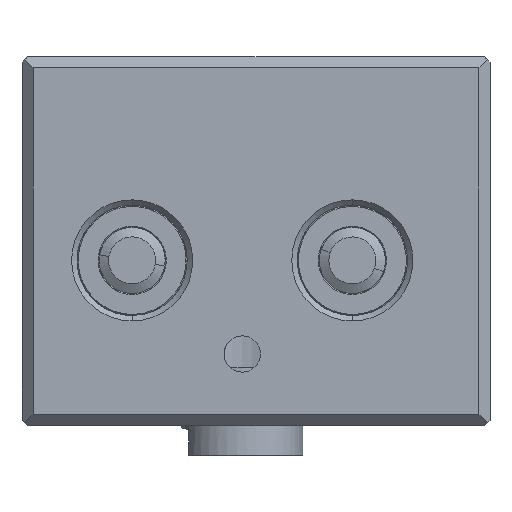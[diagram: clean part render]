
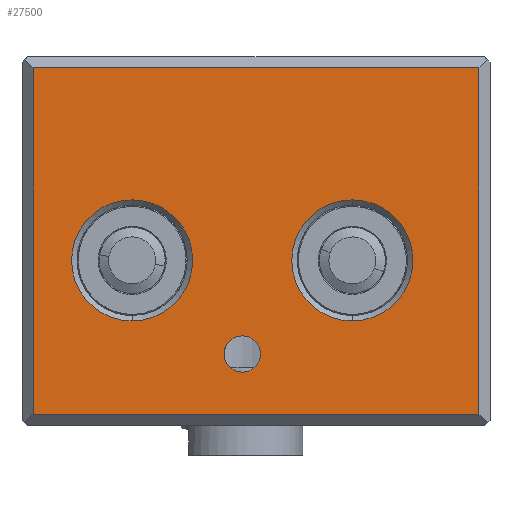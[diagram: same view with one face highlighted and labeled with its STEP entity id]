
A CAD part, front view. The second image highlights one B-rep face of the part: STEP entity #27500.
In plain terms, the highlighted planar face has unit normal (0, -1, 0).
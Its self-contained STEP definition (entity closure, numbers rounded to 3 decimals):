
#36 = FACE_BOUND ( 'NONE', #5538, .T. ) ;
#682 = VERTEX_POINT ( 'NONE', #29495 ) ;
#1308 = LINE ( 'NONE', #13573, #8096 ) ;
#1629 = VERTEX_POINT ( 'NONE', #16467 ) ;
#1680 = CARTESIAN_POINT ( 'NONE',  ( -1.25, -20., 6.5 ) ) ;
#2312 = DIRECTION ( 'NONE',  ( 0., 0., -1. ) ) ;
#2318 = AXIS2_PLACEMENT_3D ( 'NONE', #8476, #8381, #24320 ) ;
#2371 = LINE ( 'NONE', #12181, #6982 ) ;
#2998 = CARTESIAN_POINT ( 'NONE',  ( -21.25, -20., 33.5 ) ) ;
#3012 = DIRECTION ( 'NONE',  ( -1., 0., 0. ) ) ;
#3159 = ORIENTED_EDGE ( 'NONE', *, *, #4218, .T. ) ;
#3795 = VERTEX_POINT ( 'NONE', #22034 ) ;
#4218 = EDGE_CURVE ( 'NONE', #13277, #29243, #20242, .T. ) ;
#4605 = CARTESIAN_POINT ( 'NONE',  ( -1.25, -20., 4.85 ) ) ;
#4734 = DIRECTION ( 'NONE',  ( 0., -1., 0. ) ) ;
#4754 = VECTOR ( 'NONE', #16072, 1000. ) ;
#4791 = VECTOR ( 'NONE', #2312, 1000. ) ;
#4865 = CARTESIAN_POINT ( 'NONE',  ( 20.25, -20., 32.5 ) ) ;
#4993 = VERTEX_POINT ( 'NONE', #24971 ) ;
#5538 = EDGE_LOOP ( 'NONE', ( #14965, #23602 ) ) ;
#5631 = VERTEX_POINT ( 'NONE', #4605 ) ;
#5728 = EDGE_LOOP ( 'NONE', ( #7986, #21482, #22814, #28939 ) ) ;
#6982 = VECTOR ( 'NONE', #3012, 1000. ) ;
#7440 = DIRECTION ( 'NONE',  ( 0., 0., 1. ) ) ;
#7637 = LINE ( 'NONE', #25132, #4791 ) ;
#7680 = AXIS2_PLACEMENT_3D ( 'NONE', #9556, #14123, #7440 ) ;
#7957 = LINE ( 'NONE', #22945, #4754 ) ;
#7986 = ORIENTED_EDGE ( 'NONE', *, *, #20717, .T. ) ;
#8096 = VECTOR ( 'NONE', #27299, 1000. ) ;
#8260 = CIRCLE ( 'NONE', #7680, 5.5 ) ;
#8381 = DIRECTION ( 'NONE',  ( 0., 1., 0. ) ) ;
#8450 = EDGE_CURVE ( 'NONE', #10759, #3795, #7637, .T. ) ;
#8476 = CARTESIAN_POINT ( 'NONE',  ( 8.75, -20., 15. ) ) ;
#8929 = EDGE_CURVE ( 'NONE', #682, #24055, #26840, .T. ) ;
#9556 = CARTESIAN_POINT ( 'NONE',  ( 8.75, -20., 15. ) ) ;
#9822 = DIRECTION ( 'NONE',  ( 0., 1., 0. ) ) ;
#10452 = CIRCLE ( 'NONE', #18133, 5.5 ) ;
#10470 = DIRECTION ( 'NONE',  ( 0., 1., 0. ) ) ;
#10759 = VERTEX_POINT ( 'NONE', #25856 ) ;
#11238 = AXIS2_PLACEMENT_3D ( 'NONE', #1680, #15427, #19799 ) ;
#11346 = EDGE_CURVE ( 'NONE', #24055, #682, #8260, .T. ) ;
#12181 = CARTESIAN_POINT ( 'NONE',  ( -21.25, -20., 32.5 ) ) ;
#12643 = CARTESIAN_POINT ( 'NONE',  ( -11.25, -20., 15. ) ) ;
#13277 = VERTEX_POINT ( 'NONE', #24657 ) ;
#13573 = CARTESIAN_POINT ( 'NONE',  ( -21.25, -20., 1. ) ) ;
#13705 = AXIS2_PLACEMENT_3D ( 'NONE', #12643, #10470, #26367 ) ;
#13775 = ORIENTED_EDGE ( 'NONE', *, *, #11346, .T. ) ;
#13980 = FACE_OUTER_BOUND ( 'NONE', #5728, .T. ) ;
#14123 = DIRECTION ( 'NONE',  ( 0., 1., 0. ) ) ;
#14583 = DIRECTION ( 'NONE',  ( 0., 0., 1. ) ) ;
#14892 = ORIENTED_EDGE ( 'NONE', *, *, #8929, .T. ) ;
#14965 = ORIENTED_EDGE ( 'NONE', *, *, #17941, .F. ) ;
#14986 = VERTEX_POINT ( 'NONE', #4865 ) ;
#15132 = CARTESIAN_POINT ( 'NONE',  ( -11.25, -20., 20.5 ) ) ;
#15427 = DIRECTION ( 'NONE',  ( 0., -1., 0. ) ) ;
#15644 = ORIENTED_EDGE ( 'NONE', *, *, #24828, .T. ) ;
#15750 = EDGE_CURVE ( 'NONE', #14986, #10759, #2371, .T. ) ;
#16072 = DIRECTION ( 'NONE',  ( 0., 0., 1. ) ) ;
#16467 = CARTESIAN_POINT ( 'NONE',  ( -1.25, -20., 8.15 ) ) ;
#16509 = EDGE_CURVE ( 'NONE', #1629, #5631, #20701, .T. ) ;
#17595 = AXIS2_PLACEMENT_3D ( 'NONE', #2998, #23510, #21407 ) ;
#17941 = EDGE_CURVE ( 'NONE', #5631, #1629, #21000, .T. ) ;
#18133 = AXIS2_PLACEMENT_3D ( 'NONE', #23451, #9822, #14583 ) ;
#19799 = DIRECTION ( 'NONE',  ( 0., 0., -1. ) ) ;
#20242 = CIRCLE ( 'NONE', #13705, 5.5 ) ;
#20701 = CIRCLE ( 'NONE', #21104, 1.65 ) ;
#20717 = EDGE_CURVE ( 'NONE', #3795, #4993, #1308, .T. ) ;
#21000 = CIRCLE ( 'NONE', #11238, 1.65 ) ;
#21104 = AXIS2_PLACEMENT_3D ( 'NONE', #24962, #4734, #21431 ) ;
#21407 = DIRECTION ( 'NONE',  ( 0., 0., 1. ) ) ;
#21431 = DIRECTION ( 'NONE',  ( 0., 0., -1. ) ) ;
#21482 = ORIENTED_EDGE ( 'NONE', *, *, #25090, .T. ) ;
#22034 = CARTESIAN_POINT ( 'NONE',  ( -20.25, -20., 1. ) ) ;
#22814 = ORIENTED_EDGE ( 'NONE', *, *, #15750, .T. ) ;
#22852 = FACE_BOUND ( 'NONE', #28201, .T. ) ;
#22945 = CARTESIAN_POINT ( 'NONE',  ( 20.25, -20., 33.5 ) ) ;
#23451 = CARTESIAN_POINT ( 'NONE',  ( -11.25, -20., 15. ) ) ;
#23510 = DIRECTION ( 'NONE',  ( 0., 1., 0. ) ) ;
#23602 = ORIENTED_EDGE ( 'NONE', *, *, #16509, .F. ) ;
#24055 = VERTEX_POINT ( 'NONE', #26860 ) ;
#24320 = DIRECTION ( 'NONE',  ( 0., 0., 1. ) ) ;
#24657 = CARTESIAN_POINT ( 'NONE',  ( -11.25, -20., 9.5 ) ) ;
#24828 = EDGE_CURVE ( 'NONE', #29243, #13277, #10452, .T. ) ;
#24962 = CARTESIAN_POINT ( 'NONE',  ( -1.25, -20., 6.5 ) ) ;
#24971 = CARTESIAN_POINT ( 'NONE',  ( 20.25, -20., 1. ) ) ;
#25090 = EDGE_CURVE ( 'NONE', #4993, #14986, #7957, .T. ) ;
#25132 = CARTESIAN_POINT ( 'NONE',  ( -20.25, -20., 33.5 ) ) ;
#25789 = PLANE ( 'NONE',  #17595 ) ;
#25856 = CARTESIAN_POINT ( 'NONE',  ( -20.25, -20., 32.5 ) ) ;
#26367 = DIRECTION ( 'NONE',  ( 0., 0., 1. ) ) ;
#26840 = CIRCLE ( 'NONE', #2318, 5.5 ) ;
#26860 = CARTESIAN_POINT ( 'NONE',  ( 8.75, -20., 20.5 ) ) ;
#27299 = DIRECTION ( 'NONE',  ( 1., 0., 0. ) ) ;
#27500 = ADVANCED_FACE ( 'NONE', ( #29014, #22852, #13980, #36 ), #25789, .F. ) ;
#28201 = EDGE_LOOP ( 'NONE', ( #14892, #13775 ) ) ;
#28324 = EDGE_LOOP ( 'NONE', ( #3159, #15644 ) ) ;
#28939 = ORIENTED_EDGE ( 'NONE', *, *, #8450, .T. ) ;
#29014 = FACE_BOUND ( 'NONE', #28324, .T. ) ;
#29243 = VERTEX_POINT ( 'NONE', #15132 ) ;
#29495 = CARTESIAN_POINT ( 'NONE',  ( 8.75, -20., 9.5 ) ) ;
